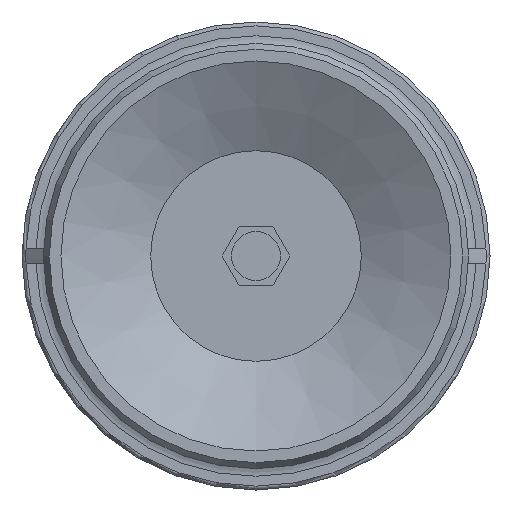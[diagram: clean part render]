
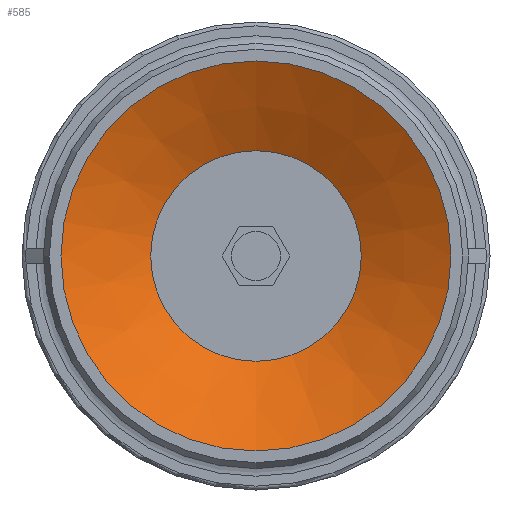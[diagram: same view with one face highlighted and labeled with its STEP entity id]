
A CAD part, front view. The second image highlights one B-rep face of the part: STEP entity #585.
In plain terms, the highlighted conical face has half-angle 61.631 degrees and reference radius 5.4 mm.
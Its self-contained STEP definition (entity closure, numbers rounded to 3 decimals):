
#585=ADVANCED_FACE('',(#906,#907),#908,.F.);
#906=FACE_BOUND('',#1229,.T.);
#907=FACE_OUTER_BOUND('',#1230,.T.);
#908=CONICAL_SURFACE('',#1231,5.4,1.076);
#1229=EDGE_LOOP('',(#2108));
#1230=EDGE_LOOP('',(#2109));
#1231=AXIS2_PLACEMENT_3D('',#2110,#2111,#2112);
#2108=ORIENTED_EDGE('',*,*,#2327,.F.);
#2109=ORIENTED_EDGE('',*,*,#2364,.T.);
#2110=CARTESIAN_POINT('',(0.0,2.484,0.0));
#2111=DIRECTION('',(-0.0,-1.0,0.));
#2112=DIRECTION('',(0.0,0.,-1.0));
#2327=EDGE_CURVE('',#2715,#2715,#2716,.T.);
#2364=EDGE_CURVE('',#2779,#2779,#2780,.T.);
#2715=VERTEX_POINT('',#3571);
#2716=CIRCLE('',#3572,5.4);
#2779=VERTEX_POINT('',#3647);
#2780=CIRCLE('',#3648,10.0);
#3571=CARTESIAN_POINT('',(0.0,2.484,-5.4));
#3572=AXIS2_PLACEMENT_3D('',#3966,#3967,#3968);
#3647=CARTESIAN_POINT('',(0.0,0.,-10.0));
#3648=AXIS2_PLACEMENT_3D('',#4053,#4054,#4055);
#3966=CARTESIAN_POINT('',(0.0,2.484,0.0));
#3967=DIRECTION('',(0.0,-1.0,0.));
#3968=DIRECTION('',(0.0,0.,-1.0));
#4053=CARTESIAN_POINT('',(0.0,0.0,0.0));
#4054=DIRECTION('',(0.0,-1.0,0.));
#4055=DIRECTION('',(0.0,0.,-1.0));
